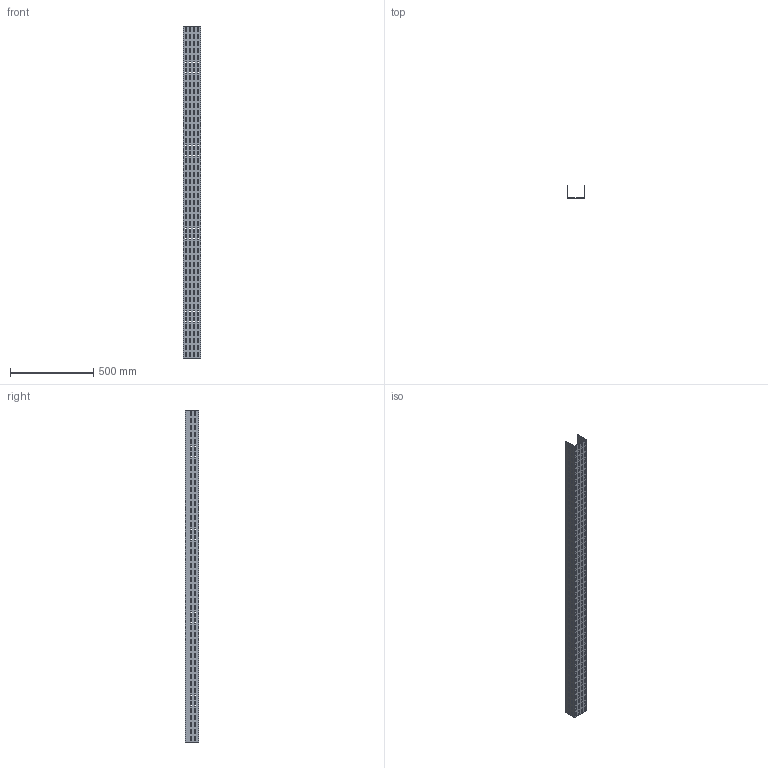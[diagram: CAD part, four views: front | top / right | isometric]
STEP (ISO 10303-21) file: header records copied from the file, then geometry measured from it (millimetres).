
FILE_DESCRIPTION (( 'STEP AP214' ), '1' );
FILE_NAME ('01F2C100.step', '2025-02-21T13:25:11', ( '' ), ( '' ), 'SwSTEP 2.0', 'SolidWorks 2023', '' );
FILE_SCHEMA (( 'AUTOMOTIVE_DESIGN' ));
Length unit declared in the file: millimetre
Products named in the file (1): 01F2C100
Bounding box: 104 x 79 x 2000 mm (x, y, z)
Volume: 1549800 mm3; surface area: 987401 mm2
Topology: 1 solids, 1 shells, 1546 faces, 4632 edges, 3088 vertices
Faces by surface type: plane 1546
Entity records: 52535 total; most frequent: CARTESIAN_POINT 9267, ORIENTED_EDGE 9264, DIRECTION 7726, LINE 4632, EDGE_CURVE 4632, VECTOR 4632, VERTEX_POINT 3088, EDGE_LOOP 2314
